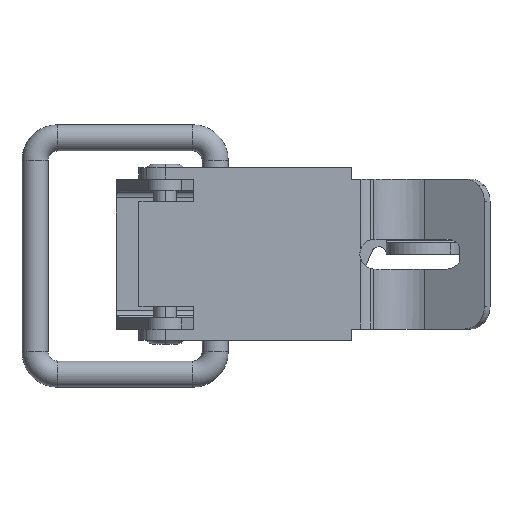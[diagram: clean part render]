
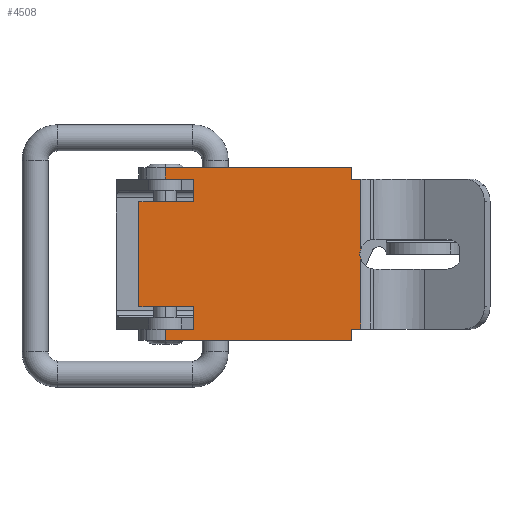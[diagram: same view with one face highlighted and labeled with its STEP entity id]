
A CAD part, top view. The second image highlights one B-rep face of the part: STEP entity #4508.
In plain terms, the highlighted planar face has unit normal (0, 0, 1).
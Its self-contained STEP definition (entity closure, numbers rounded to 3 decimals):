
#3381=CARTESIAN_POINT('',(0.5,-2.353,3.994));
#3382=VERTEX_POINT('',#3381);
#3389=CARTESIAN_POINT('',(-0.195,-2.477,3.994));
#3390=VERTEX_POINT('',#3389);
#3391=CARTESIAN_POINT('',(0.5,-4.353,3.994));
#3392=DIRECTION('',(0.0,0.0,-1.0));
#3393=DIRECTION('',(0.0,-1.0,0.0));
#3394=AXIS2_PLACEMENT_3D('',#3391,#3392,#3393);
#3395=CIRCLE('',#3394,2.0);
#3396=EDGE_CURVE('',#3390,#3382,#3395,.T.);
#3768=CARTESIAN_POINT('',(1.195,-2.477,3.994));
#3769=VERTEX_POINT('',#3768);
#3787=CARTESIAN_POINT('',(0.5,-4.353,3.994));
#3788=DIRECTION('',(0.0,0.0,-1.0));
#3789=DIRECTION('',(0.0,-1.0,0.0));
#3790=AXIS2_PLACEMENT_3D('',#3787,#3788,#3789);
#3791=CIRCLE('',#3790,2.0);
#3792=EDGE_CURVE('',#3382,#3769,#3791,.T.);
#4060=CARTESIAN_POINT('',(-9.5,-2.477,3.994));
#4061=VERTEX_POINT('',#4060);
#4062=CARTESIAN_POINT('',(-0.195,-2.477,3.994));
#4063=DIRECTION('',(-1.0,0.0,0.0));
#4064=VECTOR('',#4063,9.305);
#4065=LINE('',#4062,#4064);
#4066=EDGE_CURVE('',#3390,#4061,#4065,.T.);
#4303=CARTESIAN_POINT('',(-9.5,23.603,3.994));
#4304=VERTEX_POINT('',#4303);
#4312=CARTESIAN_POINT('',(-9.5,19.781,3.994));
#4313=VERTEX_POINT('',#4312);
#4314=CARTESIAN_POINT('',(-9.5,19.781,3.994));
#4315=DIRECTION('',(0.0,1.0,0.0));
#4316=VECTOR('',#4315,3.822);
#4317=LINE('',#4314,#4316);
#4318=EDGE_CURVE('',#4313,#4304,#4317,.T.);
#4369=CARTESIAN_POINT('',(-11.0,23.603,3.994));
#4370=VERTEX_POINT('',#4369);
#4378=CARTESIAN_POINT('',(-11.0,23.603,3.994));
#4379=DIRECTION('',(1.0,0.0,0.0));
#4380=VECTOR('',#4379,1.5);
#4381=LINE('',#4378,#4380);
#4382=EDGE_CURVE('',#4370,#4304,#4381,.T.);
#4388=CARTESIAN_POINT('',(-9.5,-4.156,3.994));
#4389=DIRECTION('',(0.0,0.0,1.0));
#4390=DIRECTION('',(1.0,0.0,0.0));
#4391=AXIS2_PLACEMENT_3D('',#4388,#4389,#4390);
#4392=PLANE('',#4391);
#4393=ORIENTED_EDGE('',*,*,#3396,.T.);
#4394=ORIENTED_EDGE('',*,*,#3792,.T.);
#4395=CARTESIAN_POINT('',(10.5,-2.477,3.994));
#4396=VERTEX_POINT('',#4395);
#4397=CARTESIAN_POINT('',(10.5,-2.477,3.994));
#4398=DIRECTION('',(-1.0,0.0,0.0));
#4399=VECTOR('',#4398,9.305);
#4400=LINE('',#4397,#4399);
#4401=EDGE_CURVE('',#4396,#3769,#4400,.T.);
#4402=ORIENTED_EDGE('',*,*,#4401,.F.);
#4403=CARTESIAN_POINT('',(10.5,-1.219,3.994));
#4404=VERTEX_POINT('',#4403);
#4405=CARTESIAN_POINT('',(10.5,-2.477,3.994));
#4406=DIRECTION('',(0.0,1.0,0.0));
#4407=VECTOR('',#4406,1.259);
#4408=LINE('',#4405,#4407);
#4409=EDGE_CURVE('',#4396,#4404,#4408,.T.);
#4410=ORIENTED_EDGE('',*,*,#4409,.T.);
#4411=CARTESIAN_POINT('',(12.0,-1.219,3.994));
#4412=VERTEX_POINT('',#4411);
#4413=CARTESIAN_POINT('',(10.5,-1.219,3.994));
#4414=DIRECTION('',(1.0,0.0,0.0));
#4415=VECTOR('',#4414,1.5);
#4416=LINE('',#4413,#4415);
#4417=EDGE_CURVE('',#4404,#4412,#4416,.T.);
#4418=ORIENTED_EDGE('',*,*,#4417,.T.);
#4419=CARTESIAN_POINT('',(12.0,23.603,3.994));
#4420=VERTEX_POINT('',#4419);
#4421=CARTESIAN_POINT('',(12.0,-1.219,3.994));
#4422=DIRECTION('',(0.0,1.0,0.0));
#4423=VECTOR('',#4422,24.822);
#4424=LINE('',#4421,#4423);
#4425=EDGE_CURVE('',#4412,#4420,#4424,.T.);
#4426=ORIENTED_EDGE('',*,*,#4425,.T.);
#4427=CARTESIAN_POINT('',(10.5,23.603,3.994));
#4428=VERTEX_POINT('',#4427);
#4429=CARTESIAN_POINT('',(10.5,23.603,3.994));
#4430=DIRECTION('',(1.0,0.0,0.0));
#4431=VECTOR('',#4430,1.5);
#4432=LINE('',#4429,#4431);
#4433=EDGE_CURVE('',#4428,#4420,#4432,.T.);
#4434=ORIENTED_EDGE('',*,*,#4433,.F.);
#4435=CARTESIAN_POINT('',(10.5,19.781,3.994));
#4436=VERTEX_POINT('',#4435);
#4437=CARTESIAN_POINT('',(10.5,23.603,3.994));
#4438=DIRECTION('',(0.0,-1.0,0.0));
#4439=VECTOR('',#4438,3.822);
#4440=LINE('',#4437,#4439);
#4441=EDGE_CURVE('',#4428,#4436,#4440,.T.);
#4442=ORIENTED_EDGE('',*,*,#4441,.T.);
#4443=CARTESIAN_POINT('',(7.5,19.781,3.994));
#4444=VERTEX_POINT('',#4443);
#4445=CARTESIAN_POINT('',(10.5,19.781,3.994));
#4446=DIRECTION('',(-1.0,0.0,0.0));
#4447=VECTOR('',#4446,3.0);
#4448=LINE('',#4445,#4447);
#4449=EDGE_CURVE('',#4436,#4444,#4448,.T.);
#4450=ORIENTED_EDGE('',*,*,#4449,.T.);
#4451=CARTESIAN_POINT('',(7.5,27.103,3.994));
#4452=VERTEX_POINT('',#4451);
#4453=CARTESIAN_POINT('',(7.5,19.781,3.994));
#4454=DIRECTION('',(0.0,1.0,0.0));
#4455=VECTOR('',#4454,7.322);
#4456=LINE('',#4453,#4455);
#4457=EDGE_CURVE('',#4444,#4452,#4456,.T.);
#4458=ORIENTED_EDGE('',*,*,#4457,.T.);
#4459=CARTESIAN_POINT('',(-6.5,27.103,3.994));
#4460=VERTEX_POINT('',#4459);
#4461=CARTESIAN_POINT('',(7.5,27.103,3.994));
#4462=DIRECTION('',(-1.0,0.0,0.0));
#4463=VECTOR('',#4462,14.);
#4464=LINE('',#4461,#4463);
#4465=EDGE_CURVE('',#4452,#4460,#4464,.T.);
#4466=ORIENTED_EDGE('',*,*,#4465,.T.);
#4467=CARTESIAN_POINT('',(-6.5,19.781,3.994));
#4468=VERTEX_POINT('',#4467);
#4469=CARTESIAN_POINT('',(-6.5,27.103,3.994));
#4470=DIRECTION('',(0.0,-1.0,0.0));
#4471=VECTOR('',#4470,7.322);
#4472=LINE('',#4469,#4471);
#4473=EDGE_CURVE('',#4460,#4468,#4472,.T.);
#4474=ORIENTED_EDGE('',*,*,#4473,.T.);
#4475=CARTESIAN_POINT('',(-6.5,19.781,3.994));
#4476=DIRECTION('',(-1.0,0.0,0.0));
#4477=VECTOR('',#4476,3.);
#4478=LINE('',#4475,#4477);
#4479=EDGE_CURVE('',#4468,#4313,#4478,.T.);
#4480=ORIENTED_EDGE('',*,*,#4479,.T.);
#4481=ORIENTED_EDGE('',*,*,#4318,.T.);
#4482=ORIENTED_EDGE('',*,*,#4382,.F.);
#4483=CARTESIAN_POINT('',(-11.,-1.219,3.994));
#4484=VERTEX_POINT('',#4483);
#4485=CARTESIAN_POINT('',(-11.0,23.603,3.994));
#4486=DIRECTION('',(0.0,-1.0,0.0));
#4487=VECTOR('',#4486,24.822);
#4488=LINE('',#4485,#4487);
#4489=EDGE_CURVE('',#4370,#4484,#4488,.T.);
#4490=ORIENTED_EDGE('',*,*,#4489,.T.);
#4491=CARTESIAN_POINT('',(-9.5,-1.219,3.994));
#4492=VERTEX_POINT('',#4491);
#4493=CARTESIAN_POINT('',(-9.5,-1.219,3.994));
#4494=DIRECTION('',(-1.0,0.0,0.0));
#4495=VECTOR('',#4494,1.5);
#4496=LINE('',#4493,#4495);
#4497=EDGE_CURVE('',#4492,#4484,#4496,.T.);
#4498=ORIENTED_EDGE('',*,*,#4497,.F.);
#4499=CARTESIAN_POINT('',(-9.5,-2.477,3.994));
#4500=DIRECTION('',(0.0,1.0,0.0));
#4501=VECTOR('',#4500,1.259);
#4502=LINE('',#4499,#4501);
#4503=EDGE_CURVE('',#4061,#4492,#4502,.T.);
#4504=ORIENTED_EDGE('',*,*,#4503,.F.);
#4505=ORIENTED_EDGE('',*,*,#4066,.F.);
#4506=EDGE_LOOP('',(#4393,#4394,#4402,#4410,#4418,#4426,#4434,#4442,#4450,#4458,#4466,#4474,#4480,#4481,#4482,#4490,#4498,#4504,#4505));
#4507=FACE_OUTER_BOUND('',#4506,.T.);
#4508=ADVANCED_FACE('',(#4507),#4392,.T.);
